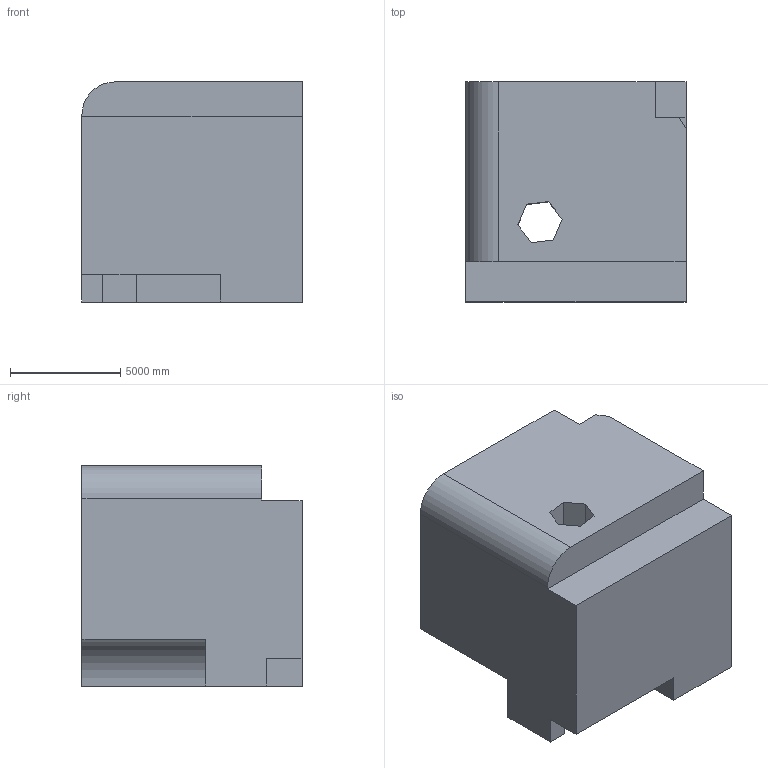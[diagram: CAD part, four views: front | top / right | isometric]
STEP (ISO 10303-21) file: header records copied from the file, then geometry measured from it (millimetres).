
FILE_DESCRIPTION (( 'STEP AP203' ), '1' );
FILE_NAME ('153.STEP', '2022-08-31T11:58:24', ( 'user' ), ( '' ), 'SwSTEP 2.0', 'SolidWorks 2021', '' );
FILE_SCHEMA (( 'CONFIG_CONTROL_DESIGN' ));
Length unit declared in the file: centimetre
Products named in the file (1): 153
Bounding box: 10000 x 10000 x 10000 mm (x, y, z)
Volume: 896279652311.1 mm3; surface area: 651725500.2 mm2
Topology: 1 solids, 1 shells, 31 faces, 87 edges, 58 vertices
Faces by surface type: plane 29, cylinder 2
Entity records: 1066 total; most frequent: CARTESIAN_POINT 177, ORIENTED_EDGE 174, DIRECTION 155, EDGE_CURVE 87, VECTOR 83, LINE 83, VERTEX_POINT 58, AXIS2_PLACEMENT_3D 36
